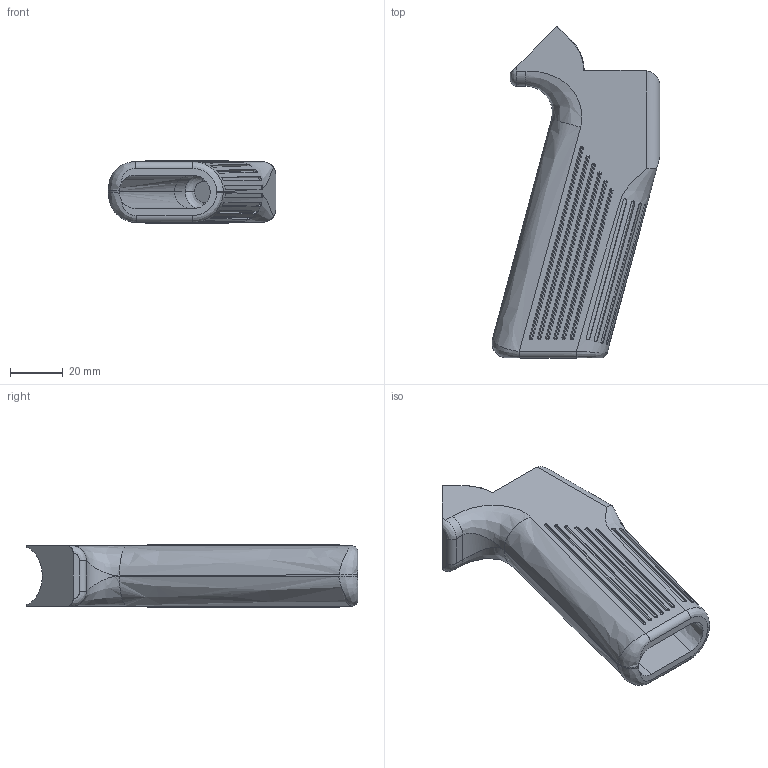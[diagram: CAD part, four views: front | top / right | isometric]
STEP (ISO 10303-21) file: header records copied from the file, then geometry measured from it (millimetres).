
FILE_DESCRIPTION (( 'STEP AP203' ), '1' );
FILE_NAME ('Main Grip Taller Web.STEP', '2020-08-04T20:58:19', ( '' ), ( '' ), 'SwSTEP 2.0', 'SolidWorks 2017', '' );
FILE_SCHEMA (( 'CONFIG_CONTROL_DESIGN' ));
Length unit declared in the file: millimetre
Products named in the file (1): Main Grip Taller Web
Bounding box: 63.83 x 126.17 x 23.81 mm (x, y, z)
Volume: 65142 mm3; surface area: 25864.4 mm2
Topology: 1 solids, 1 shells, 242 faces, 629 edges, 410 vertices
Faces by surface type: cylinder 98, plane 62, torus 54, bspline 28
Entity records: 9854 total; most frequent: CARTESIAN_POINT 3979, ORIENTED_EDGE 1258, DIRECTION 1191, EDGE_CURVE 629, AXIS2_PLACEMENT_3D 490, VERTEX_POINT 410, CIRCLE 275, EDGE_LOOP 265
